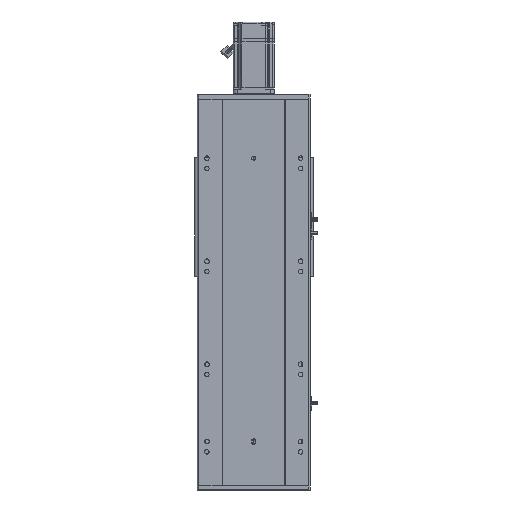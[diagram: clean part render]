
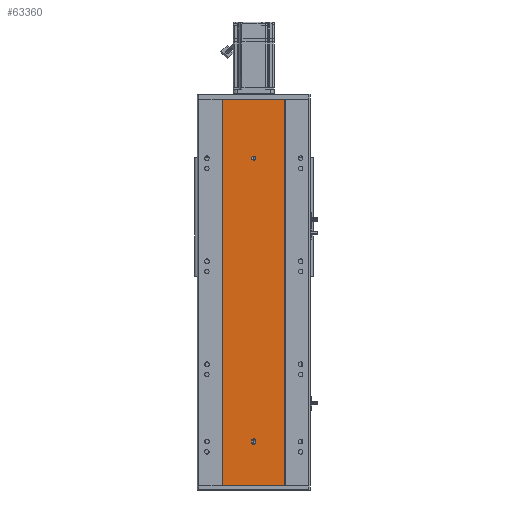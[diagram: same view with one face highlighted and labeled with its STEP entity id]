
A CAD part, front view. The second image highlights one B-rep face of the part: STEP entity #63360.
In plain terms, the highlighted planar face has unit normal (0, -1, 0).
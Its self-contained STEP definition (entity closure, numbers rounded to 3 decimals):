
#149 = AXIS2_PLACEMENT_3D ( 'NONE', #34043, #45309, #13473 ) ;
#1133 = DIRECTION ( 'NONE',  ( 0., 0., -1. ) ) ;
#1761 = AXIS2_PLACEMENT_3D ( 'NONE', #4578, #10559, #41989 ) ;
#2614 = CARTESIAN_POINT ( 'NONE',  ( -60., 0., 750. ) ) ;
#4578 = CARTESIAN_POINT ( 'NONE',  ( 0., 0., 87.5 ) ) ;
#7412 = VERTEX_POINT ( 'NONE', #47369 ) ;
#7466 = VECTOR ( 'NONE', #62021, 1000. ) ;
#8288 = EDGE_CURVE ( 'NONE', #46134, #10668, #53142, .T. ) ;
#8317 = AXIS2_PLACEMENT_3D ( 'NONE', #2614, #60360, #39595 ) ;
#9199 = CIRCLE ( 'NONE', #149, 4. ) ;
#10559 = DIRECTION ( 'NONE',  ( 0., -1., 0. ) ) ;
#10668 = VERTEX_POINT ( 'NONE', #64879 ) ;
#11620 = CARTESIAN_POINT ( 'NONE',  ( 0., 0., 84.5 ) ) ;
#12447 = VECTOR ( 'NONE', #40368, 1000. ) ;
#12465 = DIRECTION ( 'NONE',  ( 0., -1., 0. ) ) ;
#12817 = FACE_BOUND ( 'NONE', #56092, .T. ) ;
#13008 = CIRCLE ( 'NONE', #1761, 4. ) ;
#13117 = CARTESIAN_POINT ( 'NONE',  ( -60., 0., 0. ) ) ;
#13296 = ORIENTED_EDGE ( 'NONE', *, *, #14451, .F. ) ;
#13473 = DIRECTION ( 'NONE',  ( 0., 0., -1. ) ) ;
#13501 = CARTESIAN_POINT ( 'NONE',  ( -60., 0., 750. ) ) ;
#14353 = EDGE_CURVE ( 'NONE', #7412, #43404, #56241, .T. ) ;
#14373 = EDGE_CURVE ( 'NONE', #23977, #7412, #26507, .T. ) ;
#14451 = EDGE_CURVE ( 'NONE', #44776, #46475, #21526, .T. ) ;
#14724 = CARTESIAN_POINT ( 'NONE',  ( 60., 0., 750. ) ) ;
#16883 = CIRCLE ( 'NONE', #56710, 4. ) ;
#17417 = DIRECTION ( 'NONE',  ( 0., -1., 0. ) ) ;
#17829 = ORIENTED_EDGE ( 'NONE', *, *, #14353, .T. ) ;
#18152 = DIRECTION ( 'NONE',  ( 0., 0., -1. ) ) ;
#18663 = CARTESIAN_POINT ( 'NONE',  ( -60., 0., 750. ) ) ;
#19051 = AXIS2_PLACEMENT_3D ( 'NONE', #19900, #25214, #20584 ) ;
#19479 = CARTESIAN_POINT ( 'NONE',  ( 4., 0., 84.5 ) ) ;
#19900 = CARTESIAN_POINT ( 'NONE',  ( 0., 0., 84.5 ) ) ;
#20584 = DIRECTION ( 'NONE',  ( 0., 0., -1. ) ) ;
#21526 = LINE ( 'NONE', #30662, #7466 ) ;
#23977 = VERTEX_POINT ( 'NONE', #56435 ) ;
#25214 = DIRECTION ( 'NONE',  ( 0., -1., 0. ) ) ;
#25384 = CARTESIAN_POINT ( 'NONE',  ( -4., 0., 84.5 ) ) ;
#25761 = CARTESIAN_POINT ( 'NONE',  ( 60., 0., 750. ) ) ;
#25964 = ORIENTED_EDGE ( 'NONE', *, *, #49232, .F. ) ;
#26507 = LINE ( 'NONE', #18663, #12447 ) ;
#26880 = FACE_BOUND ( 'NONE', #47975, .T. ) ;
#26934 = ORIENTED_EDGE ( 'NONE', *, *, #8288, .F. ) ;
#27471 = ORIENTED_EDGE ( 'NONE', *, *, #34930, .F. ) ;
#28201 = VECTOR ( 'NONE', #66651, 1000. ) ;
#28576 = VECTOR ( 'NONE', #51528, 1000. ) ;
#30662 = CARTESIAN_POINT ( 'NONE',  ( -4., 0., 84.5 ) ) ;
#31536 = CARTESIAN_POINT ( 'NONE',  ( 4., 0., 87.5 ) ) ;
#32202 = EDGE_LOOP ( 'NONE', ( #17829, #25964, #58694, #48321 ) ) ;
#32505 = EDGE_CURVE ( 'NONE', #46475, #46134, #43385, .T. ) ;
#33108 = EDGE_CURVE ( 'NONE', #53500, #54344, #16883, .T. ) ;
#34043 = CARTESIAN_POINT ( 'NONE',  ( 0., 0., 636. ) ) ;
#34077 = DIRECTION ( 'NONE',  ( 1., 0., 0. ) ) ;
#34930 = EDGE_CURVE ( 'NONE', #54344, #53500, #9199, .T. ) ;
#39595 = DIRECTION ( 'NONE',  ( 0., 0., 1. ) ) ;
#39966 = CARTESIAN_POINT ( 'NONE',  ( 60., 0., 0. ) ) ;
#40368 = DIRECTION ( 'NONE',  ( 0., 0., -1. ) ) ;
#41332 = ORIENTED_EDGE ( 'NONE', *, *, #51830, .F. ) ;
#41488 = EDGE_CURVE ( 'NONE', #45449, #44776, #13008, .T. ) ;
#41778 = LINE ( 'NONE', #19479, #28576 ) ;
#41989 = DIRECTION ( 'NONE',  ( 0., 0., -1. ) ) ;
#42903 = VECTOR ( 'NONE', #18152, 1000. ) ;
#43385 = CIRCLE ( 'NONE', #50936, 4. ) ;
#43404 = VERTEX_POINT ( 'NONE', #39966 ) ;
#44776 = VERTEX_POINT ( 'NONE', #57247 ) ;
#45041 = CARTESIAN_POINT ( 'NONE',  ( 0., 0., 640. ) ) ;
#45309 = DIRECTION ( 'NONE',  ( 0., -1., 0. ) ) ;
#45449 = VERTEX_POINT ( 'NONE', #31536 ) ;
#46134 = VERTEX_POINT ( 'NONE', #47588 ) ;
#46475 = VERTEX_POINT ( 'NONE', #25384 ) ;
#47369 = CARTESIAN_POINT ( 'NONE',  ( -60., 0., 0. ) ) ;
#47588 = CARTESIAN_POINT ( 'NONE',  ( 0., 0., 80.5 ) ) ;
#47975 = EDGE_LOOP ( 'NONE', ( #27471, #65979 ) ) ;
#48321 = ORIENTED_EDGE ( 'NONE', *, *, #14373, .T. ) ;
#48950 = ORIENTED_EDGE ( 'NONE', *, *, #32505, .F. ) ;
#49232 = EDGE_CURVE ( 'NONE', #49372, #43404, #62715, .T. ) ;
#49372 = VERTEX_POINT ( 'NONE', #25761 ) ;
#50936 = AXIS2_PLACEMENT_3D ( 'NONE', #11620, #17417, #54312 ) ;
#51528 = DIRECTION ( 'NONE',  ( 0., 0., 1. ) ) ;
#51592 = CARTESIAN_POINT ( 'NONE',  ( 0., 0., 632. ) ) ;
#51830 = EDGE_CURVE ( 'NONE', #10668, #45449, #41778, .T. ) ;
#53142 = CIRCLE ( 'NONE', #19051, 4. ) ;
#53500 = VERTEX_POINT ( 'NONE', #45041 ) ;
#54174 = ORIENTED_EDGE ( 'NONE', *, *, #41488, .F. ) ;
#54312 = DIRECTION ( 'NONE',  ( 0., 0., -1. ) ) ;
#54344 = VERTEX_POINT ( 'NONE', #51592 ) ;
#55049 = PLANE ( 'NONE',  #8317 ) ;
#56092 = EDGE_LOOP ( 'NONE', ( #41332, #26934, #48950, #13296, #54174 ) ) ;
#56241 = LINE ( 'NONE', #13117, #28201 ) ;
#56435 = CARTESIAN_POINT ( 'NONE',  ( -60., 0., 750. ) ) ;
#56710 = AXIS2_PLACEMENT_3D ( 'NONE', #64414, #12465, #1133 ) ;
#57247 = CARTESIAN_POINT ( 'NONE',  ( -4., 0., 87.5 ) ) ;
#58694 = ORIENTED_EDGE ( 'NONE', *, *, #63264, .F. ) ;
#59039 = FACE_OUTER_BOUND ( 'NONE', #32202, .T. ) ;
#59322 = LINE ( 'NONE', #13501, #61686 ) ;
#60360 = DIRECTION ( 'NONE',  ( 0., 1., 0. ) ) ;
#61686 = VECTOR ( 'NONE', #34077, 1000. ) ;
#62021 = DIRECTION ( 'NONE',  ( 0., 0., -1. ) ) ;
#62715 = LINE ( 'NONE', #14724, #42903 ) ;
#63264 = EDGE_CURVE ( 'NONE', #23977, #49372, #59322, .T. ) ;
#63360 = ADVANCED_FACE ( 'NONE', ( #26880, #12817, #59039 ), #55049, .F. ) ;
#64414 = CARTESIAN_POINT ( 'NONE',  ( 0., 0., 636. ) ) ;
#64879 = CARTESIAN_POINT ( 'NONE',  ( 4., 0., 84.5 ) ) ;
#65979 = ORIENTED_EDGE ( 'NONE', *, *, #33108, .F. ) ;
#66651 = DIRECTION ( 'NONE',  ( 1., 0., 0. ) ) ;
